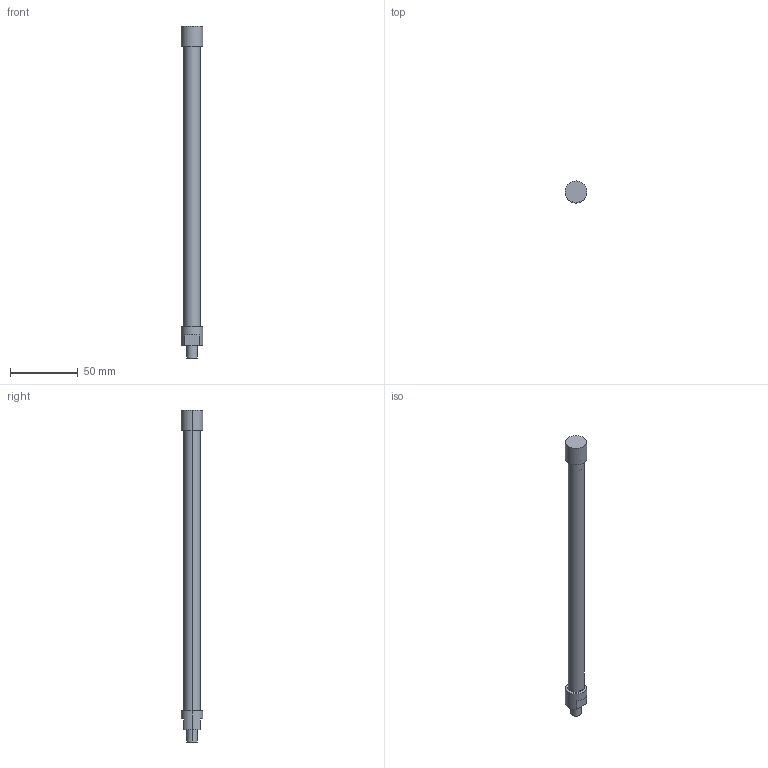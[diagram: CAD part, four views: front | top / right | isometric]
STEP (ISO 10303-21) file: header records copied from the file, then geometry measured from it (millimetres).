
FILE_DESCRIPTION(('STEP AP214'),'1');
FILE_NAME('C:/Users/Autocad/Desktop/245-60 M.stp','2014-02-10T09:08:09',(' '),(' '),'Spatial InterOp 3D',' ',' ');
FILE_SCHEMA(('automotive_design'));
Length unit declared in the file: metre
Products named in the file (2): 1; 2
Bounding box: 16 x 16 x 245 mm (x, y, z)
Volume: 10409.1 mm3; surface area: 17433.3 mm2
Topology: 1 solids, 5 shells, 27 faces, 61 edges, 45 vertices
Faces by surface type: cylinder 14, plane 13
Entity records: 1046 total; most frequent: DIRECTION 156, CARTESIAN_POINT 135, ORIENTED_EDGE 110, AXIS2_PLACEMENT_3D 66, EDGE_CURVE 61, VERTEX_POINT 45, CIRCLE 37, EDGE_LOOP 32
